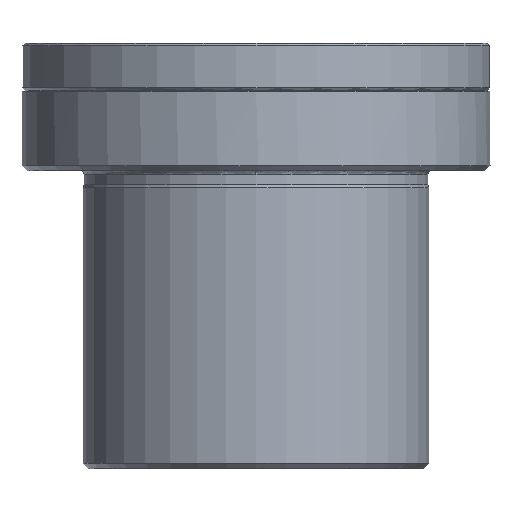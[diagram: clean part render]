
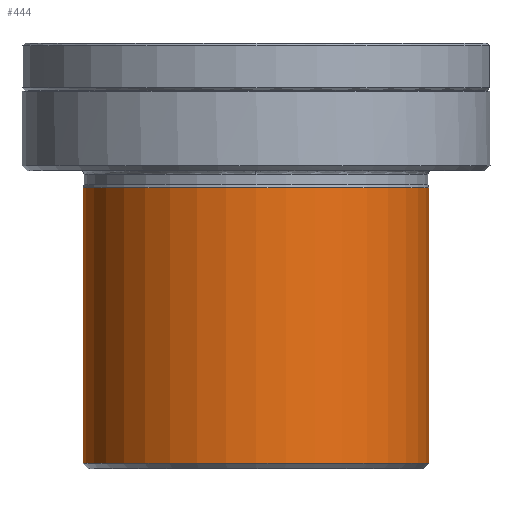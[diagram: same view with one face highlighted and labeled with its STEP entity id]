
A CAD part, left-side view. The second image highlights one B-rep face of the part: STEP entity #444.
In plain terms, the highlighted cylindrical face has radius 32.5 mm (diameter 65 mm), a full revolution.
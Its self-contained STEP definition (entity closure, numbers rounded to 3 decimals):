
#444=ADVANCED_FACE('',(#766,#767),#684,.T.);
#684=CYLINDRICAL_SURFACE('',#4200,32.5);
#766=FACE_BOUND('',#1050,.T.);
#767=FACE_BOUND('',#1051,.T.);
#1050=EDGE_LOOP('',(#2119));
#1051=EDGE_LOOP('',(#2120));
#1777=CIRCLE('',#4198,32.5);
#1778=CIRCLE('',#4199,32.5);
#2119=ORIENTED_EDGE('',*,*,#3553,.F.);
#2120=ORIENTED_EDGE('',*,*,#3554,.T.);
#3135=VERTEX_POINT('',#6288);
#3136=VERTEX_POINT('',#6290);
#3553=EDGE_CURVE('',#3135,#3135,#1777,.T.);
#3554=EDGE_CURVE('',#3136,#3136,#1778,.T.);
#4198=AXIS2_PLACEMENT_3D('',#6287,#4743,#4744);
#4199=AXIS2_PLACEMENT_3D('',#6289,#4745,#4746);
#4200=AXIS2_PLACEMENT_3D('',#6291,#4747,#4748);
#4743=DIRECTION('',(0.,0.,1.));
#4744=DIRECTION('',(1.,0.,0.));
#4745=DIRECTION('',(0.,0.,1.));
#4746=DIRECTION('',(1.,0.,0.));
#4747=DIRECTION('',(0.,0.,1.));
#4748=DIRECTION('',(-1.,0.,0.));
#6287=CARTESIAN_POINT('',(0.,0.,-18.2));
#6288=CARTESIAN_POINT('',(32.5,0.,-18.2));
#6289=CARTESIAN_POINT('',(0.,0.,-70.));
#6290=CARTESIAN_POINT('',(32.5,0.,-70.));
#6291=CARTESIAN_POINT('',(0.,0.,-70.));
